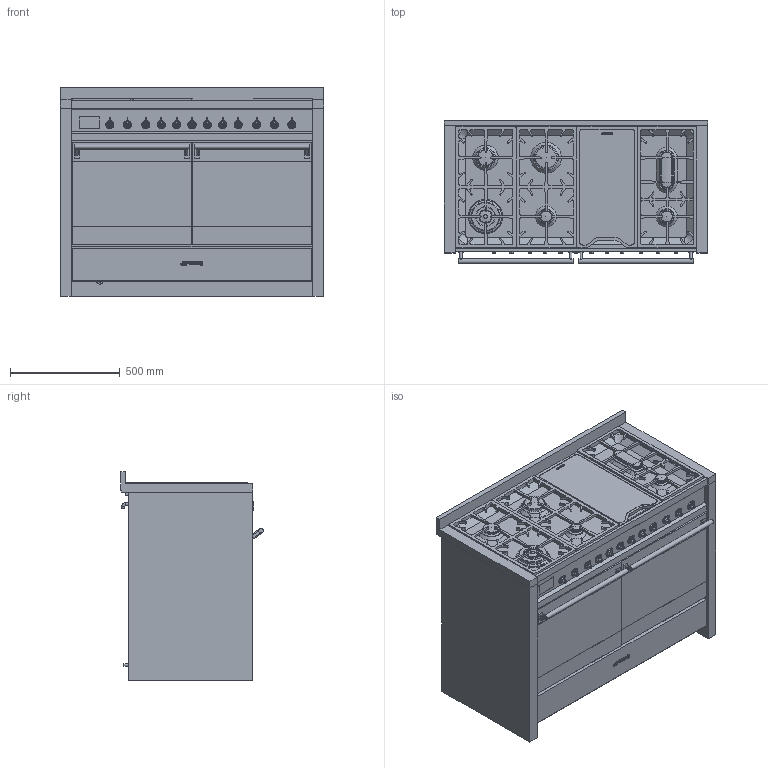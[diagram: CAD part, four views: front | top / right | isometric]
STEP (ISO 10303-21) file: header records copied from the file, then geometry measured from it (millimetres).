
FILE_DESCRIPTION(/* description */ (''),/* implementation_level */ '2;1');
FILE_NAME(/* name */ 'A4-81.stp',/* time_stamp */ '2020-09-02T17:26:28+02:00',/* author */ (''),/* organization */ (''),/* preprocessor_version */ 'ST-DEVELOPER v16',/* originating_system */ 'SIEMENS PLM Software NX 11.0',/* authorisation */ '');
FILE_SCHEMA (('AUTOMOTIVE_DESIGN { 1 0 10303 214 3 1 1 1 }'));
Length unit declared in the file: millimetre
Products named in the file (1): Mart95A84B0B0txd
Bounding box: 1200 x 651 x 951.1 mm (x, y, z)
Volume: 95284622 mm3; surface area: 10823564.9 mm2
Topology: 68 solids, 68 shells, 1333 faces, 3328 edges, 2182 vertices
Faces by surface type: plane 711, cylinder 375, torus 84, extrusion 79, cone 67, bspline 11, sphere 4, revolution 2
Full cylindrical faces by diameter (mm): 4.3 x2, 4.363 x4, 6 x12, 8.94 x6, 10 x1, 14 x2, 14.996 x12, 17 x12, 22 x14, 28 x1, 55 x2, 60.611 x1, 65.5 x2, 75 x1, 85.5 x1, 85.7 x1, 100 x1, 110.5 x1, 131 x1, 147 x1
Entity records: 40907 total; most frequent: CARTESIAN_POINT 9225, DIRECTION 6378, ORIENTED_EDGE 6170, EDGE_CURVE 3085, AXIS2_PLACEMENT_3D 2191, VERTEX_POINT 2151, VECTOR 1994, LINE 1915
